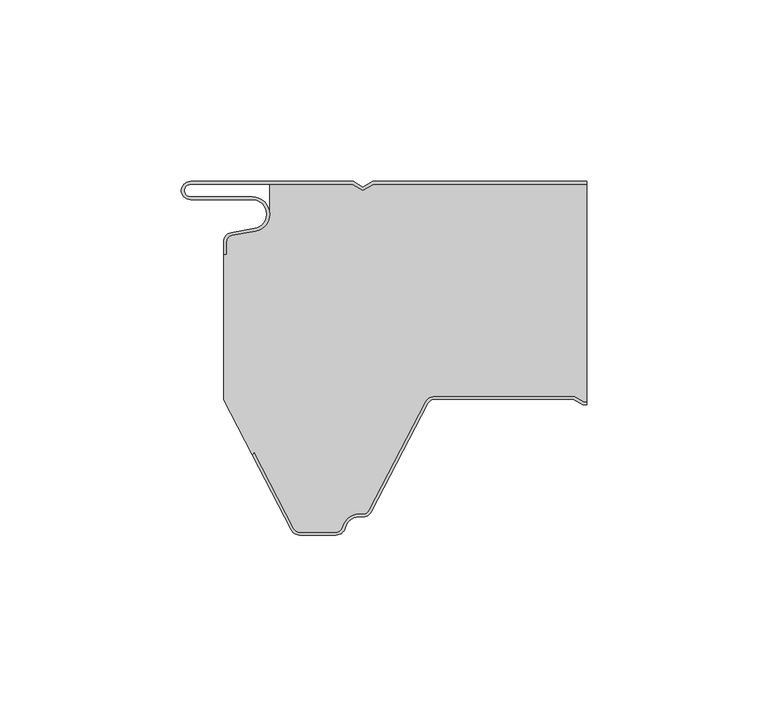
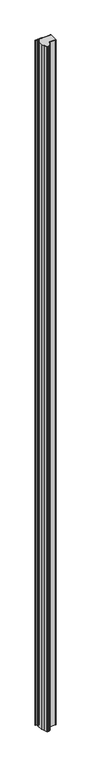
"""IFC4 building model written with IfcOpenShell, lengths in millimetres: plate geometry, P5G_5-Rib-Roof-Panel-PUR-PIR_Curtain-Panel : ACH_P5G_Rib-Roof-Panel-PIR-P5G_60mm."""

from ifc_helpers import new_model, si_unit, frame, origin, place, context, project, spatial, polyline, circle_curve, source, transform, mapped, element, save
from ifc_brep_helpers import plane_surface, cylinder_surface, revolved_surface, advanced_brep


def plate_0a1cbbb3(model_context):
    return source(origin(), model_context, "Body", "AdvancedBrep", [
        advanced_brep(
        [(-50.0, -16.636349, 5000.0), (-50.0, -20.0, 5000.0), (-49.2, -20.0, 5000.0), (-49.2, -16.636349, 5000.0), (-47.7125667, -14.863695, 5000.0), (-41.266489, -13.7270771, 5000.0), (-42.1, -4.2, 5000.0), (-59.1, -4.2, 5000.0), (-59.1, -0.8, 5000.0), (-14.5143588, -0.8, 5000.0), (-11.6, -2.4826072, 5000.0), (-8.6856412, -0.8, 5000.0), (50.0, -0.8, 5000.0), (50.0, 0.0, 5000.0), (-8.9000007, 0.0, 5000.0), (-11.6, -1.5588466, 5000.0), (-14.2999993, 0.0, 5000.0), (-59.1, 0.0, 5000.0), (-59.1, -5.0, 5000.0), (-42.1, -5.0, 5000.0), (-41.4054075, -12.939231, 5000.0), (-47.851485, -14.075848, 5000.0), (-50.0, -16.636349, 0.0), (-47.8514853, -14.0758488, 0.0), (-41.4054075, -12.9392309, 0.0), (-42.1, -5.0, 0.0), (-59.1, -5.0, 0.0), (-59.1, 0.0, 0.0), (-14.2999993, 0.0, 0.0), (-11.6, -1.5588466, 0.0), (-8.9000007, 0.0, 0.0), (50.0, 0.0, 0.0), (50.0, -0.8, 0.0), (-8.6856412, -0.8, 0.0), (-11.6, -2.4826072, 0.0), (-14.5143588, -0.8, 0.0), (-59.1, -0.8, 0.0), (-59.1, -4.2, 0.0), (-42.1, -4.2, 0.0), (-41.266489, -13.7270773, 0.0), (-47.7125665, -14.8636942, 0.0), (-49.2, -16.636349, 0.0), (-49.2, -20.0, 0.0), (-50.0, -20.0, 0.0)],
        [
            (0, 1),
            (1, 2),
            (2, 3),
            (3, 4, circle_curve(frame((-47.4, -16.636349, 5000.0), z_axis=(0.0, 0.0, -1.0), x_axis=(1.0, 0.0, 0.0)), 1.8)),
            (4, 5),
            (5, 6, circle_curve(frame((-42.1, -9.0, 5000.0), z_axis=(0.0, 0.0, 1.0), x_axis=(1.0, 0.0, 0.0)), 4.8)),
            (6, 7),
            (7, 8, circle_curve(frame((-59.1, -2.5, 5000.0), z_axis=(0.0, 0.0, -1.0), x_axis=(1.0, 0.0, 0.0)), 1.7)),
            (8, 9),
            (9, 10),
            (10, 11),
            (11, 12),
            (12, 13),
            (13, 14),
            (14, 15),
            (15, 16),
            (16, 17),
            (17, 18, circle_curve(frame((-59.1, -2.5, 5000.0), z_axis=(0.0, 0.0, 1.0), x_axis=(1.0, 0.0, 0.0)), 2.5)),
            (18, 19),
            (19, 20, circle_curve(frame((-42.1, -9.0, 5000.0), z_axis=(0.0, 0.0, -1.0), x_axis=(1.0, 0.0, 0.0)), 4.0)),
            (20, 21),
            (21, 0, circle_curve(frame((-47.4, -16.636349, 5000.0), z_axis=(0.0, 0.0, 1.0), x_axis=(1.0, 0.0, 0.0)), 2.6)),
            (22, 23, circle_curve(frame((-47.4, -16.636349, 0.0), z_axis=(0.0, 0.0, -1.0), x_axis=(1.0, 0.0, 0.0)), 2.6)),
            (23, 24),
            (24, 25, circle_curve(frame((-42.1, -9.0, 0.0), z_axis=(0.0, 0.0, 1.0), x_axis=(1.0, 0.0, 0.0)), 4.0)),
            (25, 26),
            (26, 27, circle_curve(frame((-59.1, -2.5, 0.0), z_axis=(0.0, 0.0, -1.0), x_axis=(1.0, 0.0, 0.0)), 2.5)),
            (27, 28),
            (28, 29),
            (29, 30),
            (30, 31),
            (31, 32),
            (32, 33),
            (33, 34),
            (34, 35),
            (35, 36),
            (36, 37, circle_curve(frame((-59.1, -2.5, 0.0), z_axis=(0.0, 0.0, 1.0), x_axis=(1.0, 0.0, 0.0)), 1.7)),
            (37, 38),
            (38, 39, circle_curve(frame((-42.1, -9.0, 0.0), z_axis=(0.0, 0.0, -1.0), x_axis=(1.0, 0.0, 0.0)), 4.8)),
            (39, 40),
            (40, 41, circle_curve(frame((-47.4, -16.636349, 0.0), z_axis=(0.0, 0.0, 1.0), x_axis=(1.0, 0.0, 0.0)), 1.8)),
            (41, 42),
            (42, 43),
            (43, 22),
            (0, 22),
            (43, 1),
            (42, 2),
            (41, 3),
            (40, 4),
            (39, 5),
            (38, 6),
            (37, 7),
            (36, 8),
            (35, 9),
            (34, 10),
            (33, 11),
            (32, 12),
            (30, 14),
            (13, 31),
            (29, 15),
            (28, 16),
            (27, 17),
            (26, 18),
            (25, 19),
            (24, 20),
            (23, 21),
        ],
        [
            plane_surface(frame((-50.0, 0.0, 5000.0), z_axis=(0.0, 0.0, 1.0), x_axis=(0.0, 1.0, 0.0))),
            plane_surface(frame((-50.0, 0.0, 0.0), z_axis=(0.0, 0.0, -1.0), x_axis=(0.0, 1.0, 0.0))),
            plane_surface(frame((-50.0, -16.636349, 5000.0), z_axis=(-1.0, 0.0, 0.0), x_axis=(0.0, 0.0, -1.0))),
            plane_surface(frame((-50.0, -20.0, 5000.0), z_axis=(0.0, -1.0, 0.0), x_axis=(0.0, 0.0, -1.0))),
            plane_surface(frame((-49.2, -20.0, 5000.0), z_axis=(1.0, 0.0, 0.0), x_axis=(0.0, 0.0, -1.0))),
            revolved_surface(polyline([(-45.6, -16.636349, 0.0), (-45.6, -16.636349, 5000.0)]), (-47.4, -16.636349, 5000.0), (0.0, 0.0, -1.0)),
            plane_surface(frame((-47.7125665, -14.8636942, 5000.0), z_axis=(0.17364813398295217, -0.9848077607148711, 0.0), x_axis=(0.0, 0.0, -1.0))),
            cylinder_surface(frame((-42.1, -9.0, 5000.0), z_axis=(0.0, 0.0, 1.0), x_axis=(1.0, 0.0, 0.0)), 4.8),
            plane_surface(frame((-42.1, -4.2, 5000.0), z_axis=(0.0, 1.0, 0.0), x_axis=(0.0, 0.0, -1.0))),
            revolved_surface(polyline([(-57.4, -2.5, 0.0), (-57.4, -2.5, 5000.0)]), (-59.1, -2.5, 5000.0), (0.0, 0.0, -1.0)),
            plane_surface(frame((-59.1, -0.8, 5000.0), z_axis=(0.0, -1.0, 0.0), x_axis=(0.0, 0.0, -1.0))),
            plane_surface(frame((-14.5143588, -0.8, 5000.0), z_axis=(-0.5000003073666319, -0.8660252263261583, 0.0), x_axis=(0.0, 0.0, -1.0))),
            plane_surface(frame((-11.6, -2.4826072, 5000.0), z_axis=(0.5000003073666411, -0.866025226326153, 0.0), x_axis=(0.0, 0.0, -1.0))),
            plane_surface(frame((-8.6856412, -0.8, 5000.0), z_axis=(0.0, -1.0, 0.0), x_axis=(0.0, 0.0, -1.0))),
            plane_surface(frame((85.7000007, 0.0, 5000.0), z_axis=(0.0, 1.0, 0.0), x_axis=(0.0, 0.0, -1.0))),
            plane_surface(frame((-8.9000007, 0.0, 5000.0), z_axis=(-0.5000003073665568, 0.8660252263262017, 0.0), x_axis=(0.0, 0.0, -1.0))),
            plane_surface(frame((-11.6, -1.5588466, 5000.0), z_axis=(0.5000003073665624, 0.8660252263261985, 0.0), x_axis=(0.0, 0.0, -1.0))),
            plane_surface(frame((-14.2999993, 0.0, 5000.0), z_axis=(0.0, 1.0, 0.0), x_axis=(0.0, 0.0, -1.0))),
            cylinder_surface(frame((-59.1, -2.5, 5000.0), z_axis=(0.0, 0.0, 1.0), x_axis=(1.0, 0.0, 0.0)), 2.5),
            plane_surface(frame((-59.1, -5.0, 5000.0), z_axis=(0.0, -1.0, 0.0), x_axis=(0.0, 0.0, -1.0))),
            revolved_surface(polyline([(-38.1, -9.0, 0.0), (-38.1, -9.0, 5000.0)]), (-42.1, -9.0, 5000.0), (0.0, 0.0, -1.0)),
            plane_surface(frame((-41.4054075, -12.9392309, 5000.0), z_axis=(-0.17364813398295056, 0.9848077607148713, 0.0), x_axis=(0.0, 0.0, -1.0))),
            cylinder_surface(frame((-47.4, -16.636349, 5000.0), z_axis=(0.0, 0.0, 1.0), x_axis=(1.0, 0.0, 0.0)), 2.6),
            plane_surface(frame((50.0, 0.0, 5000.0), z_axis=(1.0, 0.0, 0.0), x_axis=(0.0, 0.0, -1.0))),
        ],
        [
            (0, [[1, 2, 3, 4, 5, 6, 7, 8, 9, 10, 11, 12, 13, 14, 15, 16, 17, 18, 19, 20, 21, 22]]),
            (1, [[23, 24, 25, 26, 27, 28, 29, 30, 31, 32, 33, 34, 35, 36, 37, 38, 39, 40, 41, 42, 43, 44]]),
            (2, [[-1, 45, -44, 46]]),
            (3, [[-2, -46, -43, 47]]),
            (4, [[-3, -47, -42, 48]]),
            (5, [[-4, -48, -41, 49]]),
            (6, [[-5, -49, -40, 50]]),
            (7, [[-6, -50, -39, 51]]),
            (8, [[-7, -51, -38, 52]]),
            (9, [[-8, -52, -37, 53]]),
            (10, [[-9, -53, -36, 54]]),
            (11, [[-10, -54, -35, 55]]),
            (12, [[-11, -55, -34, 56]]),
            (13, [[-56, -33, 57, -12]]),
            (14, [[58, -14, 59, -31]]),
            (15, [[-15, -58, -30, 60]]),
            (16, [[-16, -60, -29, 61]]),
            (17, [[-17, -61, -28, 62]]),
            (18, [[-18, -62, -27, 63]]),
            (19, [[-19, -63, -26, 64]]),
            (20, [[-20, -64, -25, 65]]),
            (21, [[-21, -65, -24, 66]]),
            (22, [[-22, -66, -23, -45]]),
            (23, [[-13, -57, -32, -59]]),
        ],
    ),
        advanced_brep(
        [(-30.6207387, -95.6314818, 0.0), (-41.5569015, -74.6340495, 0.0), (-42.1499858, -75.2271753, 0.0), (-50.0, -60.1551481, 0.0), (-50.0, -20.0, 0.0), (-49.2, -20.0, 0.0), (-49.2, -16.636349, 0.0), (-47.7125653, -14.8636948, 0.0), (-41.2664891, -13.7270773, 0.0), (-37.3182654, -8.5816526, 0.0), (-37.3182654, -0.8, 0.0), (-14.5143588, -0.8, 0.0), (-11.6, -2.4826072, 0.0), (-8.6856412, -0.8, 0.0), (50.0, -0.8, 0.0), (50.0, -60.7, 0.0), (49.2107961, -60.7, 0.0), (46.6127185, -59.2, 0.0), (8.090871, -59.2, 0.0), (5.6075115, -60.7065836, 0.0), (-9.9783733, -90.6314825, 0.0), (-11.574819, -91.6, 0.0), (-12.6272901, -91.6, 0.0), (-17.2841077, -95.2363636, 0.0), (-19.030414, -96.5999997, 0.0), (-29.024293, -96.5999997, 0.0), (-30.6207383, -95.6314813, 5000.0), (-29.024293, -96.5999997, 5000.0), (-19.030414, -96.5999997, 5000.0), (-17.2841077, -95.2363636, 5000.0), (-12.6272901, -91.6, 5000.0), (-11.574819, -91.6, 5000.0), (-9.9783737, -90.631482, 5000.0), (5.6075107, -60.7065835, 5000.0), (8.090871, -59.2, 5000.0), (46.6127185, -59.2, 5000.0), (49.2107961, -60.7, 5000.0), (50.0, -60.7, 5000.0), (50.0, -0.8, 5000.0), (-8.6856412, -0.8, 5000.0), (-11.6, -2.4826072, 5000.0), (-14.5143588, -0.8, 5000.0), (-37.3182654, -0.8, 5000.0), (-37.3182654, -8.5816526, 5000.0), (-41.2664891, -13.7270773, 5000.0), (-47.7125651, -14.863694, 5000.0), (-49.2, -16.636349, 5000.0), (-49.2, -20.0, 5000.0), (-50.0, -20.0, 5000.0), (-50.0, -60.1551481, 5000.0), (-42.1499858, -75.2271753, 5000.0), (-41.5569015, -74.6340495, 5000.0)],
        [
            (0, 1),
            (1, 2),
            (2, 3),
            (3, 4),
            (4, 5),
            (5, 6),
            (6, 7, circle_curve(frame((-47.4, -16.636349, 0.0), z_axis=(0.0, 0.0, -1.0), x_axis=(-1.0, 0.0, 0.0)), 1.8)),
            (7, 8),
            (8, 9, circle_curve(frame((-42.1, -9.0, 0.0), z_axis=(0.0, 0.0, 1.0), x_axis=(-1.0, 0.0, 0.0)), 4.8)),
            (9, 10),
            (10, 11),
            (11, 12),
            (12, 13),
            (13, 14),
            (14, 15),
            (15, 16),
            (16, 17),
            (17, 18),
            (18, 19, circle_curve(frame((8.090871, -62.0, 0.0), z_axis=(0.0, 0.0, 1.0), x_axis=(-1.0, 0.0, 0.0)), 2.8)),
            (19, 20),
            (20, 21, circle_curve(frame((-11.574819, -89.8, 0.0), z_axis=(0.0, 0.0, -1.0), x_axis=(-1.0, 0.0, 0.0)), 1.8)),
            (21, 22),
            (22, 23, circle_curve(frame((-12.6272901, -96.4, 0.0), z_axis=(0.0, 0.0, 1.0), x_axis=(-1.0, 0.0, 0.0)), 4.8)),
            (23, 24, circle_curve(frame((-19.030414, -94.8, 0.0), z_axis=(0.0, 0.0, -1.0), x_axis=(-1.0, 0.0, 0.0)), 1.7999997)),
            (24, 25),
            (25, 0, circle_curve(frame((-29.024293, -94.8, 0.0), z_axis=(0.0, 0.0, -1.0), x_axis=(-1.0, 0.0, 0.0)), 1.7999997)),
            (26, 27, circle_curve(frame((-29.024293, -94.8, 5000.0), z_axis=(0.0, 0.0, 1.0), x_axis=(-1.0, 0.0, 0.0)), 1.7999997)),
            (27, 28),
            (28, 29, circle_curve(frame((-19.030414, -94.8, 5000.0), z_axis=(0.0, 0.0, 1.0), x_axis=(-1.0, 0.0, 0.0)), 1.7999997)),
            (29, 30, circle_curve(frame((-12.6272901, -96.4, 5000.0), z_axis=(0.0, 0.0, -1.0), x_axis=(-1.0, 0.0, 0.0)), 4.8)),
            (30, 31),
            (31, 32, circle_curve(frame((-11.574819, -89.8, 5000.0), z_axis=(0.0, 0.0, 1.0), x_axis=(-1.0, 0.0, 0.0)), 1.8)),
            (32, 33),
            (33, 34, circle_curve(frame((8.090871, -62.0, 5000.0), z_axis=(0.0, 0.0, -1.0), x_axis=(-1.0, 0.0, 0.0)), 2.8)),
            (34, 35),
            (35, 36),
            (36, 37),
            (37, 38),
            (38, 39),
            (39, 40),
            (40, 41),
            (41, 42),
            (42, 43),
            (43, 44, circle_curve(frame((-42.1, -9.0, 5000.0), z_axis=(0.0, 0.0, -1.0), x_axis=(-1.0, 0.0, 0.0)), 4.8)),
            (44, 45),
            (45, 46, circle_curve(frame((-47.4, -16.636349, 5000.0), z_axis=(0.0, 0.0, 1.0), x_axis=(-1.0, 0.0, 0.0)), 1.8)),
            (46, 47),
            (47, 48),
            (48, 49),
            (49, 50),
            (50, 51),
            (51, 26),
            (0, 26),
            (51, 1),
            (50, 2),
            (49, 3),
            (48, 4),
            (47, 5),
            (46, 6),
            (45, 7),
            (44, 8),
            (43, 9),
            (42, 10),
            (41, 11),
            (40, 12),
            (39, 13),
            (38, 14),
            (36, 16),
            (15, 37),
            (35, 17),
            (34, 18),
            (33, 19),
            (32, 20),
            (31, 21),
            (30, 22),
            (29, 23),
            (28, 24),
            (27, 25),
        ],
        [
            plane_surface(frame((-50.0, 0.0, 0.0), z_axis=(0.0, 0.0, -1.0), x_axis=(0.0, 1.0, 0.0))),
            plane_surface(frame((-50.0, 0.0, 5000.0), z_axis=(0.0, 0.0, 1.0), x_axis=(0.0, 1.0, 0.0))),
            plane_surface(frame((-30.6207387, -95.6314818, 0.0), z_axis=(-0.8869140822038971, -0.46193442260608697, 0.0), x_axis=(0.0, 0.0, 1.0))),
            plane_surface(frame((-41.5569015, -74.6340495, 0.0), z_axis=(0.7071314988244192, -0.7070820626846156, 0.0), x_axis=(0.0, 0.0, 1.0))),
            plane_surface(frame((-42.1499858, -75.2271753, 0.0), z_axis=(-0.8869140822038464, -0.46193442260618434, 0.0), x_axis=(0.0, 0.0, 1.0))),
            plane_surface(frame((-50.0, -60.1551481, 0.0), z_axis=(-1.0, 0.0, 0.0), x_axis=(0.0, 0.0, 1.0))),
            plane_surface(frame((-50.0, -20.0, 0.0), z_axis=(0.0, 1.0, 0.0), x_axis=(0.0, 0.0, 1.0))),
            plane_surface(frame((-49.2, -20.0, 0.0), z_axis=(-1.0, 0.0, 0.0), x_axis=(0.0, 0.0, 1.0))),
            cylinder_surface(frame((-47.4, -16.636349, 0.0), z_axis=(0.0, 0.0, -1.0), x_axis=(-1.0, 0.0, 0.0)), 1.8),
            plane_surface(frame((-47.7125651, -14.863694, 0.0), z_axis=(-0.17364811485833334, 0.9848077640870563, 0.0), x_axis=(0.0, 0.0, 1.0))),
            revolved_surface(polyline([(-46.9, -9.0, 5000.0), (-46.9, -9.0, 0.0)]), (-42.1, -9.0, 0.0), (0.0, 0.0, 1.0)),
            plane_surface(frame((-37.3182654, -8.5816526, 0.0), z_axis=(-1.0, 0.0, 0.0), x_axis=(0.0, 0.0, 1.0))),
            plane_surface(frame((-37.3182654, -0.8, 0.0), z_axis=(0.0, 1.0, 0.0), x_axis=(0.0, 0.0, 1.0))),
            plane_surface(frame((-14.5143588, -0.8, 0.0), z_axis=(0.500000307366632, 0.8660252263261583, 0.0), x_axis=(0.0, 0.0, 1.0))),
            plane_surface(frame((-11.6, -2.4826072, 0.0), z_axis=(-0.500000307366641, 0.8660252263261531, 0.0), x_axis=(0.0, 0.0, 1.0))),
            plane_surface(frame((-8.6856412, -0.8, 0.0), z_axis=(0.0, 1.0, 0.0), x_axis=(0.0, 0.0, 1.0))),
            plane_surface(frame((81.5859248, -60.7, 0.0), z_axis=(0.0, -1.0, 0.0), x_axis=(0.0, 0.0, 1.0))),
            plane_surface(frame((49.2107961, -60.7, 0.0), z_axis=(-0.4999997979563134, -0.8660255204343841, 0.0), x_axis=(0.0, 0.0, 1.0))),
            plane_surface(frame((46.6127185, -59.2, 0.0), z_axis=(0.0, -1.0, 0.0), x_axis=(0.0, 0.0, 1.0))),
            revolved_surface(polyline([(5.290871, -62.0, 5000.0), (5.290871, -62.0, 0.0)]), (8.090871, -62.0, 0.0), (0.0, 0.0, 1.0)),
            plane_surface(frame((5.6075107, -60.7065835, 0.0), z_axis=(0.8869140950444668, -0.4619343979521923, 0.0), x_axis=(0.0, 0.0, 1.0))),
            cylinder_surface(frame((-11.574819, -89.8, 0.0), z_axis=(0.0, 0.0, -1.0), x_axis=(-1.0, 0.0, 0.0)), 1.8),
            plane_surface(frame((-11.574819, -91.6, 0.0), z_axis=(0.0, -1.0, 0.0), x_axis=(0.0, 0.0, 1.0))),
            revolved_surface(polyline([(-17.4272901, -96.4, 5000.0), (-17.4272901, -96.4, 0.0)]), (-12.6272901, -96.4, 0.0), (0.0, 0.0, 1.0)),
            cylinder_surface(frame((-19.030414, -94.8, 0.0), z_axis=(0.0, 0.0, -1.0), x_axis=(-1.0, 0.0, 0.0)), 1.7999997),
            plane_surface(frame((-19.030414, -96.5999997, 0.0), z_axis=(0.0, -1.0, 0.0), x_axis=(0.0, 0.0, 1.0))),
            cylinder_surface(frame((-29.024293, -94.8, 0.0), z_axis=(0.0, 0.0, -1.0), x_axis=(-1.0, 0.0, 0.0)), 1.7999997),
            plane_surface(frame((50.0, 0.0, 5000.0), z_axis=(1.0, 0.0, 0.0), x_axis=(0.0, 0.0, -1.0))),
        ],
        [
            (0, [[1, 2, 3, 4, 5, 6, 7, 8, 9, 10, 11, 12, 13, 14, 15, 16, 17, 18, 19, 20, 21, 22, 23, 24, 25, 26]]),
            (1, [[27, 28, 29, 30, 31, 32, 33, 34, 35, 36, 37, 38, 39, 40, 41, 42, 43, 44, 45, 46, 47, 48, 49, 50, 51, 52]]),
            (2, [[-1, 53, -52, 54]]),
            (3, [[-2, -54, -51, 55]]),
            (4, [[-3, -55, -50, 56]]),
            (5, [[-4, -56, -49, 57]]),
            (6, [[-5, -57, -48, 58]]),
            (7, [[-6, -58, -47, 59]]),
            (8, [[-7, -59, -46, 60]]),
            (9, [[-8, -60, -45, 61]]),
            (10, [[-9, -61, -44, 62]]),
            (11, [[-10, -62, -43, 63]]),
            (12, [[-11, -63, -42, 64]]),
            (13, [[-12, -64, -41, 65]]),
            (14, [[-13, -65, -40, 66]]),
            (15, [[-66, -39, 67, -14]]),
            (16, [[68, -16, 69, -37]]),
            (17, [[-17, -68, -36, 70]]),
            (18, [[-18, -70, -35, 71]]),
            (19, [[-19, -71, -34, 72]]),
            (20, [[-20, -72, -33, 73]]),
            (21, [[-21, -73, -32, 74]]),
            (22, [[-22, -74, -31, 75]]),
            (23, [[-23, -75, -30, 76]]),
            (24, [[-24, -76, -29, 77]]),
            (25, [[-25, -77, -28, 78]]),
            (26, [[-26, -78, -27, -53]]),
            (27, [[-15, -67, -38, -69]]),
        ],
    ),
        advanced_brep(
        [(49.2107962, -60.7, 5000.0), (46.6127186, -59.2, 5000.0), (8.090871, -59.2, 5000.0), (5.6075116, -60.7065836, 5000.0), (-9.9783733, -90.6314825, 5000.0), (-11.574819, -91.6, 5000.0), (-12.62729, -91.6, 5000.0), (-17.2841076, -95.2363636, 5000.0), (-19.030414, -96.6, 5000.0), (-29.024293, -96.6, 5000.0), (-30.6207383, -95.631482, 5000.0), (-41.5569015, -74.6340495, 5000.0), (-42.15, -75.227148, 5000.0), (-31.33027, -96.00103, 5000.0), (-29.024293, -97.4, 5000.0), (-19.030414, -97.4, 5000.0), (-16.5079711, -95.4303031, 5000.0), (-12.62729, -92.4, 5000.0), (-11.574819, -92.4, 5000.0), (-9.2688424, -91.0010295, 5000.0), (6.317042, -61.076131, 5000.0), (8.090871, -60.0, 5000.0), (46.3983593, -60.0, 5000.0), (48.9964369, -61.5, 5000.0), (50.0, -61.5, 5000.0), (50.0, -60.7, 5000.0), (48.9964369, -61.5, 0.0), (46.3983593, -60.0, 0.0), (8.090871, -60.0, 0.0), (6.3170428, -61.0761312, 0.0), (-9.268842, -91.00103, 0.0), (-11.574819, -92.4, 0.0), (-12.62729, -92.4, 0.0), (-16.5079713, -95.430303, 0.0), (-19.030414, -97.4, 0.0), (-29.024293, -97.4, 0.0), (-31.3302696, -96.0010295, 0.0), (-42.15, -75.227148, 0.0), (-41.5569015, -74.6340495, 0.0), (-30.6207387, -95.6314825, 0.0), (-29.024293, -96.6, 0.0), (-19.030414, -96.6, 0.0), (-17.2841074, -95.2363637, 0.0), (-12.62729, -91.6, 0.0), (-11.574819, -91.6, 0.0), (-9.9783737, -90.631482, 0.0), (5.6075107, -60.7065835, 0.0), (8.090871, -59.2, 0.0), (46.6127186, -59.2, 0.0), (49.2107962, -60.7, 0.0), (50.0, -60.7, 0.0), (50.0, -61.5, 0.0)],
        [
            (0, 1),
            (1, 2),
            (2, 3, circle_curve(frame((8.090871, -62.0, 5000.0), z_axis=(0.0, 0.0, 1.0), x_axis=(1.0, 0.0, 0.0)), 2.8)),
            (3, 4),
            (4, 5, circle_curve(frame((-11.574819, -89.8, 5000.0), z_axis=(0.0, 0.0, -1.0), x_axis=(1.0, 0.0, 0.0)), 1.8)),
            (5, 6),
            (6, 7, circle_curve(frame((-12.62729, -96.4, 5000.0), z_axis=(0.0, 0.0, 1.0), x_axis=(1.0, 0.0, 0.0)), 4.8)),
            (7, 8, circle_curve(frame((-19.030414, -94.8, 5000.0), z_axis=(0.0, 0.0, -1.0), x_axis=(1.0, 0.0, 0.0)), 1.8)),
            (8, 9),
            (9, 10, circle_curve(frame((-29.024293, -94.8, 5000.0), z_axis=(0.0, 0.0, -1.0), x_axis=(1.0, 0.0, 0.0)), 1.8)),
            (10, 11),
            (11, 12),
            (12, 13),
            (13, 14, circle_curve(frame((-29.024293, -94.8, 5000.0), z_axis=(0.0, 0.0, 1.0), x_axis=(1.0, 0.0, 0.0)), 2.6)),
            (14, 15),
            (15, 16, circle_curve(frame((-19.030414, -94.8, 5000.0), z_axis=(0.0, 0.0, 1.0), x_axis=(1.0, 0.0, 0.0)), 2.6)),
            (16, 17, circle_curve(frame((-12.62729, -96.4, 5000.0), z_axis=(0.0, 0.0, -1.0), x_axis=(1.0, 0.0, 0.0)), 4.0)),
            (17, 18),
            (18, 19, circle_curve(frame((-11.574819, -89.8, 5000.0), z_axis=(0.0, 0.0, 1.0), x_axis=(1.0, 0.0, 0.0)), 2.6)),
            (19, 20),
            (20, 21, circle_curve(frame((8.090871, -62.0, 5000.0), z_axis=(0.0, 0.0, -1.0), x_axis=(1.0, 0.0, 0.0)), 2.0)),
            (21, 22),
            (22, 23),
            (23, 24),
            (24, 25),
            (25, 0),
            (26, 27),
            (27, 28),
            (28, 29, circle_curve(frame((8.090871, -62.0, 0.0), z_axis=(0.0, 0.0, 1.0), x_axis=(1.0, 0.0, 0.0)), 2.0)),
            (29, 30),
            (30, 31, circle_curve(frame((-11.574819, -89.8, 0.0), z_axis=(0.0, 0.0, -1.0), x_axis=(1.0, 0.0, 0.0)), 2.6)),
            (31, 32),
            (32, 33, circle_curve(frame((-12.62729, -96.4, 0.0), z_axis=(0.0, 0.0, 1.0), x_axis=(1.0, 0.0, 0.0)), 4.0)),
            (33, 34, circle_curve(frame((-19.030414, -94.8, 0.0), z_axis=(0.0, 0.0, -1.0), x_axis=(1.0, 0.0, 0.0)), 2.6)),
            (34, 35),
            (35, 36, circle_curve(frame((-29.024293, -94.8, 0.0), z_axis=(0.0, 0.0, -1.0), x_axis=(1.0, 0.0, 0.0)), 2.6)),
            (36, 37),
            (37, 38),
            (38, 39),
            (39, 40, circle_curve(frame((-29.024293, -94.8, 0.0), z_axis=(0.0, 0.0, 1.0), x_axis=(1.0, 0.0, 0.0)), 1.8)),
            (40, 41),
            (41, 42, circle_curve(frame((-19.030414, -94.8, 0.0), z_axis=(0.0, 0.0, 1.0), x_axis=(1.0, 0.0, 0.0)), 1.8)),
            (42, 43, circle_curve(frame((-12.62729, -96.4, 0.0), z_axis=(0.0, 0.0, -1.0), x_axis=(1.0, 0.0, 0.0)), 4.8)),
            (43, 44),
            (44, 45, circle_curve(frame((-11.574819, -89.8, 0.0), z_axis=(0.0, 0.0, 1.0), x_axis=(1.0, 0.0, 0.0)), 1.8)),
            (45, 46),
            (46, 47, circle_curve(frame((8.090871, -62.0, 0.0), z_axis=(0.0, 0.0, -1.0), x_axis=(1.0, 0.0, 0.0)), 2.8)),
            (47, 48),
            (48, 49),
            (49, 50),
            (50, 51),
            (51, 26),
            (49, 0),
            (25, 50),
            (48, 1),
            (47, 2),
            (46, 3),
            (45, 4),
            (44, 5),
            (43, 6),
            (42, 7),
            (41, 8),
            (40, 9),
            (39, 10),
            (38, 11),
            (37, 12),
            (36, 13),
            (35, 14),
            (34, 15),
            (33, 16),
            (32, 17),
            (31, 18),
            (30, 19),
            (29, 20),
            (28, 21),
            (27, 22),
            (26, 23),
            (51, 24),
        ],
        [
            plane_surface(frame((-50.0, -60.0, 5000.0), z_axis=(0.0, 0.0, 1.0), x_axis=(0.0, 1.0, 0.0))),
            plane_surface(frame((-50.0, -60.0, 0.0), z_axis=(0.0, 0.0, -1.0), x_axis=(0.0, 1.0, 0.0))),
            plane_surface(frame((81.5859248, -60.7, 5000.0), z_axis=(0.0, 1.0, 0.0), x_axis=(0.0, 0.0, -1.0))),
            plane_surface(frame((49.2107962, -60.7, 5000.0), z_axis=(0.4999997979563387, 0.8660255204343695, 0.0), x_axis=(0.0, 0.0, -1.0))),
            plane_surface(frame((46.6127186, -59.2, 5000.0), z_axis=(0.0, 1.0, 0.0), x_axis=(0.0, 0.0, -1.0))),
            cylinder_surface(frame((8.090871, -62.0, 5000.0), z_axis=(0.0, 0.0, 1.0), x_axis=(1.0, 0.0, 0.0)), 2.8),
            plane_surface(frame((5.6075107, -60.7065835, 5000.0), z_axis=(-0.8869140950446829, 0.4619343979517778, 0.0), x_axis=(0.0, 0.0, -1.0))),
            revolved_surface(polyline([(-9.774818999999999, -89.8, 0.0), (-9.774818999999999, -89.8, 5000.0)]), (-11.574819, -89.8, 5000.0), (0.0, 0.0, -1.0)),
            plane_surface(frame((-11.574819, -91.6, 5000.0), z_axis=(0.0, 1.0, 0.0), x_axis=(0.0, 0.0, -1.0))),
            cylinder_surface(frame((-12.62729, -96.4, 5000.0), z_axis=(0.0, 0.0, 1.0), x_axis=(1.0, 0.0, 0.0)), 4.8),
            revolved_surface(polyline([(-17.230414, -94.8, 0.0), (-17.230414, -94.8, 5000.0)]), (-19.030414, -94.8, 5000.0), (0.0, 0.0, -1.0)),
            plane_surface(frame((-19.030414, -96.6, 5000.0), z_axis=(0.0, 1.0, 0.0), x_axis=(0.0, 0.0, -1.0))),
            revolved_surface(polyline([(-27.224293, -94.8, 0.0), (-27.224293, -94.8, 5000.0)]), (-29.024293, -94.8, 5000.0), (0.0, 0.0, -1.0)),
            plane_surface(frame((-30.6207387, -95.6314825, 5000.0), z_axis=(0.8869140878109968, 0.46193441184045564, 0.0), x_axis=(0.0, 0.0, -1.0))),
            plane_surface(frame((-41.5569015, -74.6340495, 5000.0), z_axis=(-0.7071067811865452, 0.7071067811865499, 0.0), x_axis=(0.0, 0.0, -1.0))),
            plane_surface(frame((-42.15, -75.227148, 5000.0), z_axis=(-0.8869140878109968, -0.46193441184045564, 0.0), x_axis=(0.0, 0.0, -1.0))),
            cylinder_surface(frame((-29.024293, -94.8, 5000.0), z_axis=(0.0, 0.0, 1.0), x_axis=(1.0, 0.0, 0.0)), 2.6),
            plane_surface(frame((-29.024293, -97.4, 5000.0), z_axis=(0.0, -1.0, 0.0), x_axis=(0.0, 0.0, -1.0))),
            cylinder_surface(frame((-19.030414, -94.8, 5000.0), z_axis=(0.0, 0.0, 1.0), x_axis=(1.0, 0.0, 0.0)), 2.6),
            revolved_surface(polyline([(-8.62729, -96.4, 0.0), (-8.62729, -96.4, 5000.0)]), (-12.62729, -96.4, 5000.0), (0.0, 0.0, -1.0)),
            plane_surface(frame((-12.62729, -92.4, 5000.0), z_axis=(0.0, -1.0, 0.0), x_axis=(0.0, 0.0, -1.0))),
            cylinder_surface(frame((-11.574819, -89.8, 5000.0), z_axis=(0.0, 0.0, 1.0), x_axis=(1.0, 0.0, 0.0)), 2.6),
            plane_surface(frame((-9.268842, -91.00103, 5000.0), z_axis=(0.8869140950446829, -0.4619343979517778, 0.0), x_axis=(0.0, 0.0, -1.0))),
            revolved_surface(polyline([(10.090871, -62.0, 0.0), (10.090871, -62.0, 5000.0)]), (8.090871, -62.0, 5000.0), (0.0, 0.0, -1.0)),
            plane_surface(frame((8.090871, -60.0, 5000.0), z_axis=(0.0, -1.0, 0.0), x_axis=(0.0, 0.0, -1.0))),
            plane_surface(frame((46.3983593, -60.0, 5000.0), z_axis=(-0.4999997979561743, -0.8660255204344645, 0.0), x_axis=(0.0, 0.0, -1.0))),
            plane_surface(frame((48.9964369, -61.5, 5000.0), z_axis=(0.0, -1.0, 0.0), x_axis=(0.0, 0.0, -1.0))),
            plane_surface(frame((50.0, 0.0, 5000.0), z_axis=(1.0, 0.0, 0.0), x_axis=(0.0, 0.0, -1.0))),
        ],
        [
            (0, [[1, 2, 3, 4, 5, 6, 7, 8, 9, 10, 11, 12, 13, 14, 15, 16, 17, 18, 19, 20, 21, 22, 23, 24, 25, 26]]),
            (1, [[27, 28, 29, 30, 31, 32, 33, 34, 35, 36, 37, 38, 39, 40, 41, 42, 43, 44, 45, 46, 47, 48, 49, 50, 51, 52]]),
            (2, [[53, -26, 54, -50]]),
            (3, [[-1, -53, -49, 55]]),
            (4, [[-2, -55, -48, 56]]),
            (5, [[-3, -56, -47, 57]]),
            (6, [[-4, -57, -46, 58]]),
            (7, [[-5, -58, -45, 59]]),
            (8, [[-6, -59, -44, 60]]),
            (9, [[-7, -60, -43, 61]]),
            (10, [[-8, -61, -42, 62]]),
            (11, [[-9, -62, -41, 63]]),
            (12, [[-10, -63, -40, 64]]),
            (13, [[-11, -64, -39, 65]]),
            (14, [[-12, -65, -38, 66]]),
            (15, [[-13, -66, -37, 67]]),
            (16, [[-14, -67, -36, 68]]),
            (17, [[-15, -68, -35, 69]]),
            (18, [[-16, -69, -34, 70]]),
            (19, [[-17, -70, -33, 71]]),
            (20, [[-18, -71, -32, 72]]),
            (21, [[-19, -72, -31, 73]]),
            (22, [[-20, -73, -30, 74]]),
            (23, [[-21, -74, -29, 75]]),
            (24, [[-22, -75, -28, 76]]),
            (25, [[-23, -76, -27, 77]]),
            (26, [[-77, -52, 78, -24]]),
            (27, [[-25, -78, -51, -54]]),
        ],
    ),
    ])


if __name__ == "__main__":
    model = new_model("IFC4")
    model_context = context("Model", 3, world=origin())
    ifc_project = project(units=[si_unit("LENGTHUNIT", "METRE", prefix="MILLI")], contexts=[model_context])
    site = spatial("IfcSite", under=ifc_project)
    building = spatial("IfcBuilding", under=site)
    placement = place(None, origin())
    plate_shape = plate_0a1cbbb3(model_context)
    element("IfcPlate", 1, ObjectType="P5G_5-Rib-Roof-Panel-PUR-PIR_Curtain-Panel : ACH_P5G_Rib-Roof-Panel-PIR-P5G_60mm", at=placement, inside=building, context=model_context, shape_type="MappedRepresentation", body=[
        mapped(plate_shape, transform((0.0, 0.0, 0.0), x_axis=(1.0, 0.0, 0.0), y_axis=(0.0, 1.0, 0.0), z_axis=(0.0, 0.0, 1.0))),
    ])
    save(model, "model.ifc")
